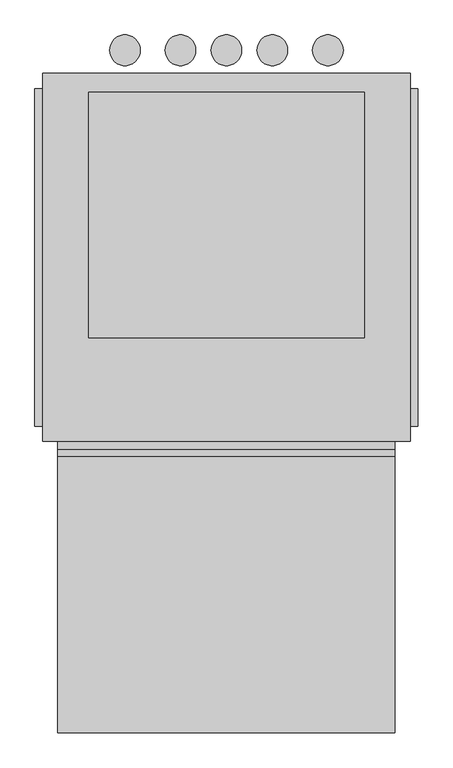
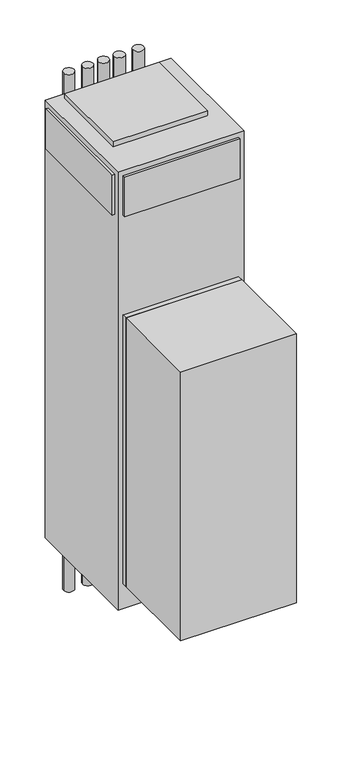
"""IFC4 building model written with IfcOpenShell, lengths in millimetres: proxy geometry, Concealed_Modular_Fan_Coil_Unit_-_MPY_-_IEC_-_4-Pipe_-_WithRisers_2022 : Size 12 - 277v/60Hz/1Ph - 4/1 Coil."""

from ifc_helpers import new_model, si_unit, point, frame, frame_2d, origin, origin_with_axes, place, context, project, spatial, polyline, circle_curve, trimmed, segment, composite_curve, outline, extrude, source, transform, mapped, element, save


def mechanical_equipment_db7b1876(model_context):
    return source(origin(), model_context, "Body", "SweptSolid", [
        extrude(outline(polyline([(1305.3480703, 215.9), (1295.4, 248.0733866), (1437.5709244, 248.0733866), (1414.5489183, 215.9), (1305.3480703, 215.9)])), frame((0.0, -393.7, 0.0), z_axis=(0.0, 1.0, 0.0), x_axis=(0.0, 0.0, 1.0)), (0.0, 0.0, 1.0), 3.175),
        extrude(outline(polyline([(1384.3473557, 254.8317195), (1381.1449632, 280.9131138), (1410.3738042, 280.9131138), (1418.4382193, 254.8317195), (1384.3473557, 254.8317195)])), frame((0.0, -393.7, 0.0), z_axis=(0.0, 1.0, 0.0), x_axis=(0.0, 0.0, 1.0)), (0.0, 0.0, 1.0), 3.175),
        extrude(outline(polyline([(1332.4838288, 280.9131138), (1328.8183279, 254.8317195), (1295.4, 254.8317195), (1304.0342372, 280.9131138), (1332.4838288, 280.9131138)])), frame((0.0, -393.7, 0.0), z_axis=(0.0, 1.0, 0.0), x_axis=(0.0, 0.0, 1.0)), (0.0, 0.0, 1.0), 3.175),
        extrude(outline(polyline([(1371.7989903, 280.9131138), (1374.0808166, 254.8317195), (1338.1432681, 254.8317195), (1340.8845331, 280.9131138), (1371.7989903, 280.9131138)])), frame((0.0, -393.7, 0.0), z_axis=(0.0, 1.0, 0.0), x_axis=(0.0, 0.0, 1.0)), (0.0, 0.0, 1.0), 3.175),
        extrude(outline(polyline([(736.6, -847.725), (177.8, -847.725), (177.8, -390.525), (736.6, -390.525), (736.6, -847.725)])), frame((0.0, 0.0, 127.0), z_axis=(0.0, 0.0, 1.0), x_axis=(1.0, 0.0, 0.0)), (0.0, 0.0, 1.0), 1371.6),
        extrude(outline(composite_curve([segment(trimmed(circle_curve(frame_2d((457.2, 282.575)), 25.4), [point((431.8, 282.575))], [point((482.6, 282.575))], False, "CARTESIAN"), True, "CONTINUOUS"), segment(trimmed(circle_curve(frame_2d((457.2, 282.575)), 25.4), [point((482.6, 282.575))], [point((431.8, 282.575))], False, "CARTESIAN"), True, "CONTINUOUS")], self_intersect=False)), frame((0.0, 0.0, -330.2), z_axis=(0.0, 0.0, 1.0), x_axis=(1.0, 0.0, 0.0)), (0.0, 0.0, 1.0), 2641.6),
        extrude(outline(composite_curve([segment(trimmed(circle_curve(frame_2d((533.4, 282.575)), 25.4), [point((508.0, 282.575))], [point((558.8, 282.575))], False, "CARTESIAN"), True, "CONTINUOUS"), segment(trimmed(circle_curve(frame_2d((533.4, 282.575)), 25.4), [point((558.8, 282.575))], [point((508.0, 282.575))], False, "CARTESIAN"), True, "CONTINUOUS")], self_intersect=False)), frame((0.0, 0.0, -330.2), z_axis=(0.0, 0.0, 1.0), x_axis=(1.0, 0.0, 0.0)), (0.0, 0.0, 1.0), 2641.6),
        extrude(outline(composite_curve([segment(trimmed(circle_curve(frame_2d((625.475, 282.575)), 25.4), [point((600.075, 282.575))], [point((650.875, 282.575))], False, "CARTESIAN"), True, "CONTINUOUS"), segment(trimmed(circle_curve(frame_2d((625.475, 282.575)), 25.4), [point((650.875, 282.575))], [point((600.075, 282.575))], False, "CARTESIAN"), True, "CONTINUOUS")], self_intersect=False)), frame((0.0, 0.0, -330.2), z_axis=(0.0, 0.0, 1.0), x_axis=(1.0, 0.0, 0.0)), (0.0, 0.0, 1.0), 2641.6),
        extrude(outline(composite_curve([segment(trimmed(circle_curve(frame_2d((381.0, 282.575)), 25.4), [point((355.6, 282.575))], [point((406.4, 282.575))], False, "CARTESIAN"), True, "CONTINUOUS"), segment(trimmed(circle_curve(frame_2d((381.0, 282.575)), 25.4), [point((406.4, 282.575))], [point((355.6, 282.575))], False, "CARTESIAN"), True, "CONTINUOUS")], self_intersect=False)), frame((0.0, 0.0, -330.2), z_axis=(0.0, 0.0, 1.0), x_axis=(1.0, 0.0, 0.0)), (0.0, 0.0, 1.0), 2641.6),
        extrude(outline(composite_curve([segment(trimmed(circle_curve(frame_2d((288.925, 282.575)), 25.4), [point((263.525, 282.575))], [point((314.325, 282.575))], False, "CARTESIAN"), True, "CONTINUOUS"), segment(trimmed(circle_curve(frame_2d((288.925, 282.575)), 25.4), [point((314.325, 282.575))], [point((263.525, 282.575))], False, "CARTESIAN"), True, "CONTINUOUS")], self_intersect=False)), frame((0.0, 0.0, -330.2), z_axis=(0.0, 0.0, 1.0), x_axis=(1.0, 0.0, 0.0)), (0.0, 0.0, 1.0), 2641.6),
        extrude(outline(polyline([(685.8, 212.725), (685.8, -193.675), (228.6, -193.675), (228.6, 212.725), (685.8, 212.725)])), frame((0.0, 0.0, 2235.2), z_axis=(0.0, 0.0, 1.0), x_axis=(1.0, 0.0, 0.0)), (0.0, 0.0, 1.0), 25.4),
        extrude(outline(polyline([(139.7, -339.725), (139.7, 219.075), (152.4, 219.075), (152.4, -339.725), (139.7, -339.725)])), frame((0.0, 0.0, 2006.6), z_axis=(0.0, 0.0, 1.0), x_axis=(1.0, 0.0, 0.0)), (0.0, 0.0, 1.0), 203.2),
        extrude(outline(polyline([(774.7, 219.075), (774.7, -339.725), (762.0, -339.725), (762.0, 219.075), (774.7, 219.075)])), frame((0.0, 0.0, 2006.6), z_axis=(0.0, 0.0, 1.0), x_axis=(1.0, 0.0, 0.0)), (0.0, 0.0, 1.0), 203.2),
        extrude(outline(polyline([(736.6, -377.825), (177.8, -377.825), (177.8, -365.125), (736.6, -365.125), (736.6, -377.825)])), frame((0.0, 0.0, 2006.6), z_axis=(0.0, 0.0, 1.0), x_axis=(1.0, 0.0, 0.0)), (0.0, 0.0, 1.0), 203.2),
        extrude(outline(polyline([(736.6, -390.525), (177.8, -390.525), (177.8, -365.125), (736.6, -365.125), (736.6, -390.525)])), frame((0.0, 0.0, 127.0), z_axis=(0.0, 0.0, 1.0), x_axis=(1.0, 0.0, 0.0)), (0.0, 0.0, 1.0), 1371.6),
        extrude(outline(polyline([(762.0, 244.475), (762.0, -365.125), (152.4, -365.125), (152.4, 244.475), (762.0, 244.475)])), origin_with_axes(), (0.0, 0.0, 1.0), 2235.2),
    ])


if __name__ == "__main__":
    model = new_model("IFC4")
    model_context = context("Model", 3, world=origin())
    ifc_project = project(units=[si_unit("LENGTHUNIT", "METRE", prefix="MILLI")], contexts=[model_context])
    site = spatial("IfcSite", under=ifc_project)
    building = spatial("IfcBuilding", under=site)
    placement = place(None, origin())
    mechanical_equipment_shape = mechanical_equipment_db7b1876(model_context)
    element("IfcBuildingElementProxy", 1, Name="Concealed_Modular_Fan_Coil_Unit_-_MPY_-_IEC_-_4-Pipe_-_WithRisers_2022 : Size 12 - 277v/60Hz/1Ph - 4/1 Coil", ObjectType="Concealed_Modular_Fan_Coil_Unit_-_MPY_-_IEC_-_4-Pipe_-_WithRisers_2022 : Size 12 - 277v/60Hz/1Ph - 4/1 Coil", at=placement, inside=building, context=model_context, shape_type="MappedRepresentation", body=[
        mapped(mechanical_equipment_shape, transform((0.0, 0.0, 0.0), x_axis=(1.0, 0.0, 0.0), y_axis=(0.0, 1.0, 0.0), z_axis=(0.0, 0.0, 1.0))),
    ])
    save(model, "model.ifc")
